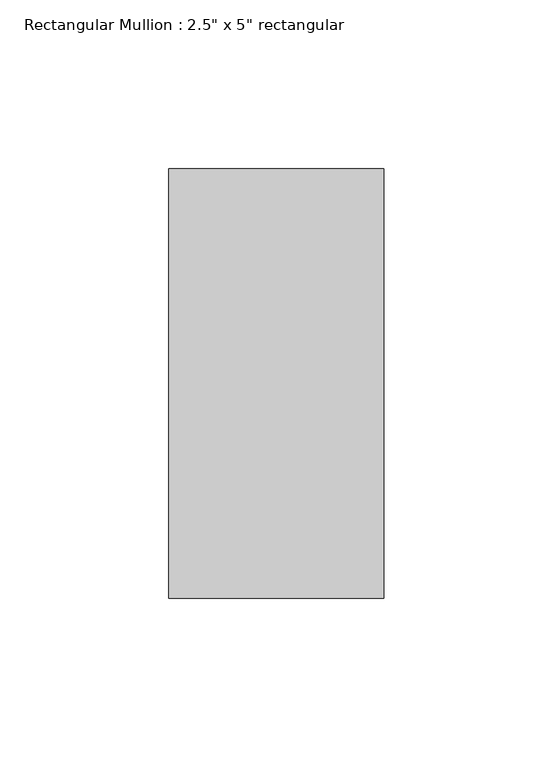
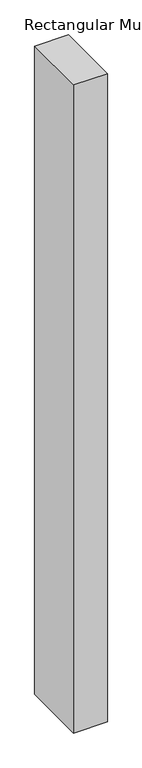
"""IFC4 building model written with IfcOpenShell, lengths in millimetres: member geometry."""

from ifc_helpers import new_model, si_unit, frame, origin, place, context, project, spatial, polyline, outline, extrude, source, transform, mapped, element, save


def member_4dae772a(model_context):
    return source(origin(), model_context, "Body", "SweptSolid", [
        extrude(outline(polyline([(31.75, 63.5), (31.75, -63.5), (-31.75, -63.5), (-31.75, 63.5), (31.75, 63.5)])), frame((0.0, 0.0, -1291.1666665), z_axis=(0.0, 0.0, 1.0), x_axis=(1.0, 0.0, 0.0)), (0.0, 0.0, 1.0), 1291.1666665),
    ])


if __name__ == "__main__":
    model = new_model("IFC4")
    model_context = context("Model", 3, world=origin())
    ifc_project = project(units=[si_unit("LENGTHUNIT", "METRE", prefix="MILLI")], contexts=[model_context])
    site = spatial("IfcSite", under=ifc_project)
    building = spatial("IfcBuilding", under=site)
    placement = place(None, origin())
    member_shape = member_4dae772a(model_context)
    element("IfcMember", 1, ObjectType="Rectangular Mullion : 2.5\" x 5\" rectangular", at=placement, inside=building, context=model_context, shape_type="MappedRepresentation", body=[
        mapped(member_shape, transform((0.0, 0.0, 0.0), x_axis=(1.0, 0.0, 0.0), y_axis=(0.0, 1.0, 0.0), z_axis=(0.0, 0.0, 1.0))),
    ])
    save(model, "model.ifc")
